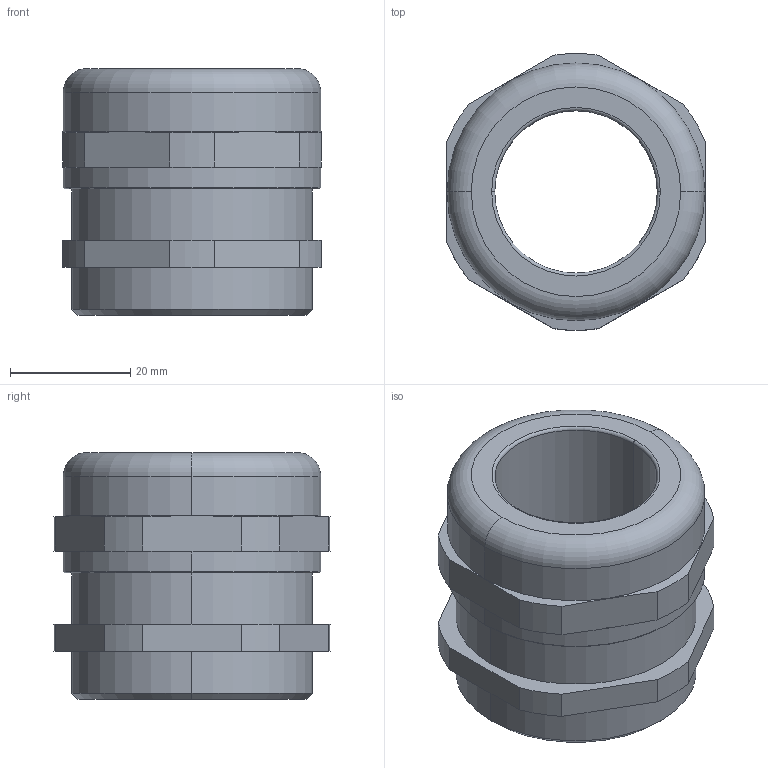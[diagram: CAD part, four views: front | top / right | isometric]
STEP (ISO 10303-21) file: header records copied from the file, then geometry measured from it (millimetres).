
FILE_DESCRIPTION (( 'STEP AP203' ), '1' );
FILE_NAME ('50.640 M.STEP', '2005-10-05T06:50:49', ( ' ' ), ( '' ), 'SwSTEP 2.0', 'SolidWorks 2005143', '' );
FILE_SCHEMA (( 'CONFIG_CONTROL_DESIGN' ));
Length unit declared in the file: millimetre
Products named in the file (1): 50.640 M
Bounding box: 43 x 45.93 x 41 mm (x, y, z)
Volume: 33289.1 mm3; surface area: 11157.4 mm2
Topology: 1 solids, 1 shells, 88 faces, 228 edges, 148 vertices
Faces by surface type: plane 54, cylinder 22, cone 8, torus 4
Entity records: 2777 total; most frequent: CARTESIAN_POINT 521, ORIENTED_EDGE 456, DIRECTION 446, EDGE_CURVE 228, VECTOR 156, LINE 156, VERTEX_POINT 148, AXIS2_PLACEMENT_3D 145
